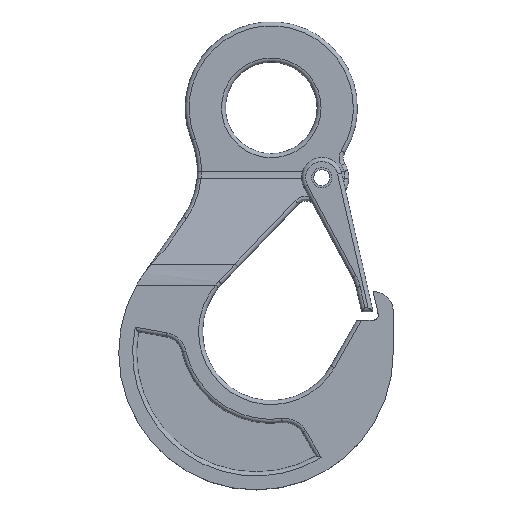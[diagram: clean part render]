
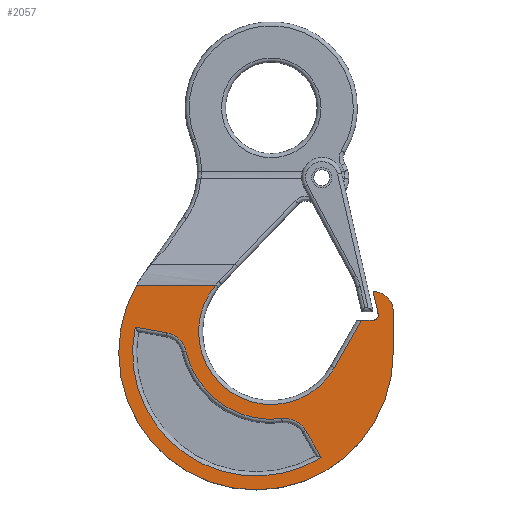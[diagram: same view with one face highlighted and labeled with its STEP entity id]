
A CAD part, top view. The second image highlights one B-rep face of the part: STEP entity #2057.
In plain terms, the highlighted planar face has unit normal (0, 0, 1).
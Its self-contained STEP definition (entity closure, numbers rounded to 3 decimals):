
#225=FACE_BOUND('',#391,.T.);
#259=FACE_OUTER_BOUND('',#390,.T.);
#390=EDGE_LOOP('',(#1508,#1509,#1510,#1511,#1512,#1513,#1514,#1515,#1516));
#391=EDGE_LOOP('',(#1517,#1518,#1519,#1520,#1521,#1522));
#524=LINE('',#3542,#644);
#535=LINE('',#4050,#655);
#536=LINE('',#4054,#656);
#537=LINE('',#4058,#657);
#538=LINE('',#4059,#658);
#539=LINE('',#4062,#659);
#540=LINE('',#4070,#660);
#644=VECTOR('',#2624,37.185);
#655=VECTOR('',#2669,19.25);
#656=VECTOR('',#2672,10.869);
#657=VECTOR('',#2675,5.563);
#658=VECTOR('',#2676,25.672);
#659=VECTOR('',#2677,14.923);
#660=VECTOR('',#2684,14.519);
#774=CIRCLE('',#2300,64.5);
#775=CIRCLE('',#2302,34.15);
#776=CIRCLE('',#2303,9.5);
#777=CIRCLE('',#2304,2.375);
#778=CIRCLE('',#2305,11.4);
#779=CIRCLE('',#2306,41.1);
#780=CIRCLE('',#2307,11.4);
#781=CIRCLE('',#2308,57.987);
#909=VERTEX_POINT('',#3458);
#913=VERTEX_POINT('',#3516);
#934=VERTEX_POINT('',#4043);
#935=VERTEX_POINT('',#4047);
#936=VERTEX_POINT('',#4049);
#937=VERTEX_POINT('',#4051);
#938=VERTEX_POINT('',#4053);
#939=VERTEX_POINT('',#4055);
#940=VERTEX_POINT('',#4057);
#941=VERTEX_POINT('',#4060);
#942=VERTEX_POINT('',#4061);
#943=VERTEX_POINT('',#4063);
#944=VERTEX_POINT('',#4065);
#945=VERTEX_POINT('',#4067);
#946=VERTEX_POINT('',#4069);
#1117=EDGE_CURVE('',#913,#909,#524,.T.);
#1146=EDGE_CURVE('',#913,#934,#774,.T.);
#1147=EDGE_CURVE('',#935,#909,#775,.T.);
#1148=EDGE_CURVE('',#934,#936,#535,.T.);
#1149=EDGE_CURVE('',#936,#937,#776,.T.);
#1150=EDGE_CURVE('',#938,#937,#536,.T.);
#1151=EDGE_CURVE('',#939,#938,#777,.T.);
#1152=EDGE_CURVE('',#940,#939,#537,.T.);
#1153=EDGE_CURVE('',#940,#935,#538,.T.);
#1154=EDGE_CURVE('',#941,#942,#539,.T.);
#1155=EDGE_CURVE('',#942,#943,#778,.T.);
#1156=EDGE_CURVE('',#943,#944,#779,.T.);
#1157=EDGE_CURVE('',#944,#945,#780,.T.);
#1158=EDGE_CURVE('',#945,#946,#540,.T.);
#1159=EDGE_CURVE('',#946,#941,#781,.T.);
#1508=ORIENTED_EDGE('',*,*,#1147,.T.);
#1509=ORIENTED_EDGE('',*,*,#1117,.F.);
#1510=ORIENTED_EDGE('',*,*,#1146,.T.);
#1511=ORIENTED_EDGE('',*,*,#1148,.T.);
#1512=ORIENTED_EDGE('',*,*,#1149,.T.);
#1513=ORIENTED_EDGE('',*,*,#1150,.F.);
#1514=ORIENTED_EDGE('',*,*,#1151,.F.);
#1515=ORIENTED_EDGE('',*,*,#1152,.F.);
#1516=ORIENTED_EDGE('',*,*,#1153,.T.);
#1517=ORIENTED_EDGE('',*,*,#1154,.T.);
#1518=ORIENTED_EDGE('',*,*,#1155,.T.);
#1519=ORIENTED_EDGE('',*,*,#1156,.T.);
#1520=ORIENTED_EDGE('',*,*,#1157,.T.);
#1521=ORIENTED_EDGE('',*,*,#1158,.T.);
#1522=ORIENTED_EDGE('',*,*,#1159,.T.);
#2006=PLANE('',#2301);
#2057=ADVANCED_FACE('',(#259,#225),#2006,.T.);
#2300=AXIS2_PLACEMENT_3D('',#4045,#2663,#2664);
#2301=AXIS2_PLACEMENT_3D('',#4046,#2665,#2666);
#2302=AXIS2_PLACEMENT_3D('',#4048,#2667,#2668);
#2303=AXIS2_PLACEMENT_3D('',#4052,#2670,#2671);
#2304=AXIS2_PLACEMENT_3D('',#4056,#2673,#2674);
#2305=AXIS2_PLACEMENT_3D('',#4064,#2678,#2679);
#2306=AXIS2_PLACEMENT_3D('',#4066,#2680,#2681);
#2307=AXIS2_PLACEMENT_3D('',#4068,#2682,#2683);
#2308=AXIS2_PLACEMENT_3D('',#4071,#2685,#2686);
#2624=DIRECTION('',(1.,0.,0.));
#2663=DIRECTION('center_axis',(0.,0.,1.));
#2664=DIRECTION('ref_axis',(-0.871,0.492,0.));
#2665=DIRECTION('center_axis',(0.,0.,1.));
#2666=DIRECTION('ref_axis',(1.,0.,0.));
#2667=DIRECTION('center_axis',(0.,0.,-1.));
#2668=DIRECTION('ref_axis',(0.87,-0.493,0.));
#2669=DIRECTION('',(0.,1.,0.));
#2670=DIRECTION('center_axis',(0.,0.,1.));
#2671=DIRECTION('ref_axis',(1.,0.,0.));
#2672=DIRECTION('',(-0.222,0.975,0.));
#2673=DIRECTION('center_axis',(0.,0.,1.));
#2674=DIRECTION('ref_axis',(0.,-1.,0.));
#2675=DIRECTION('',(1.,0.,0.));
#2676=DIRECTION('',(-0.493,-0.87,0.));
#2677=DIRECTION('',(0.985,-0.174,0.));
#2678=DIRECTION('center_axis',(0.,0.,-1.));
#2679=DIRECTION('ref_axis',(0.174,0.985,0.));
#2680=DIRECTION('center_axis',(0.,0.,1.));
#2681=DIRECTION('ref_axis',(-0.975,-0.222,0.));
#2682=DIRECTION('center_axis',(0.,0.,-1.));
#2683=DIRECTION('ref_axis',(-0.12,0.993,0.));
#2684=DIRECTION('',(0.5,-0.866,0.));
#2685=DIRECTION('center_axis',(0.,0.,-1.));
#2686=DIRECTION('ref_axis',(0.528,-0.849,0.));
#3458=CARTESIAN_POINT('',(45.526,96.225,16.5));
#3516=CARTESIAN_POINT('',(8.342,96.225,16.5));
#3542=CARTESIAN_POINT('',(8.342,96.225,16.5));
#4043=CARTESIAN_POINT('',(129.,64.5,16.5));
#4045=CARTESIAN_POINT('Origin',(64.5,64.5,16.5));
#4046=CARTESIAN_POINT('Origin',(0.,0.,16.5));
#4047=CARTESIAN_POINT('',(101.378,57.414,16.5));
#4048=CARTESIAN_POINT('Origin',(71.667,74.25,16.5));
#4049=CARTESIAN_POINT('',(129.,83.75,16.5));
#4050=CARTESIAN_POINT('',(129.,64.5,16.5));
#4051=CARTESIAN_POINT('',(119.5,93.25,16.5));
#4052=CARTESIAN_POINT('Origin',(119.5,83.75,16.5));
#4053=CARTESIAN_POINT('',(121.913,82.652,16.5));
#4054=CARTESIAN_POINT('',(121.913,82.652,16.5));
#4055=CARTESIAN_POINT('',(119.597,79.75,16.5));
#4056=CARTESIAN_POINT('Origin',(119.597,82.125,16.5));
#4057=CARTESIAN_POINT('',(114.034,79.75,16.5));
#4058=CARTESIAN_POINT('',(114.034,79.75,16.5));
#4059=CARTESIAN_POINT('',(114.034,79.75,16.5));
#4060=CARTESIAN_POINT('',(7.755,76.435,16.5));
#4061=CARTESIAN_POINT('',(22.451,73.844,16.5));
#4062=CARTESIAN_POINT('',(7.755,76.435,16.5));
#4063=CARTESIAN_POINT('',(31.588,65.143,16.5));
#4064=CARTESIAN_POINT('Origin',(20.472,62.617,16.5));
#4065=CARTESIAN_POINT('',(76.618,33.449,16.5));
#4066=CARTESIAN_POINT('Origin',(71.667,74.25,16.5));
#4067=CARTESIAN_POINT('',(87.864,27.832,16.5));
#4068=CARTESIAN_POINT('Origin',(77.991,22.132,16.5));
#4069=CARTESIAN_POINT('',(95.123,15.259,16.5));
#4070=CARTESIAN_POINT('',(87.864,27.832,16.5));
#4071=CARTESIAN_POINT('Origin',(64.5,64.5,16.5));
